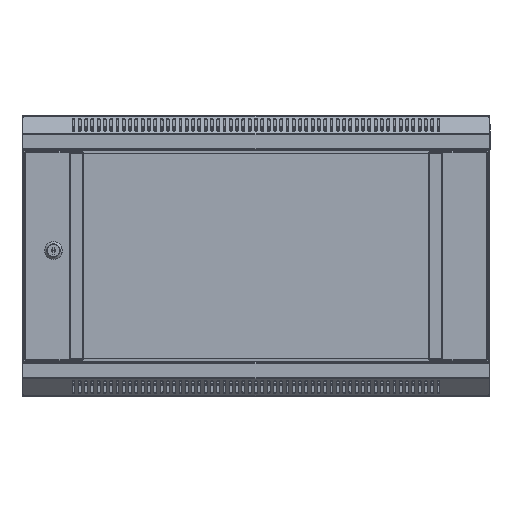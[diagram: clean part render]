
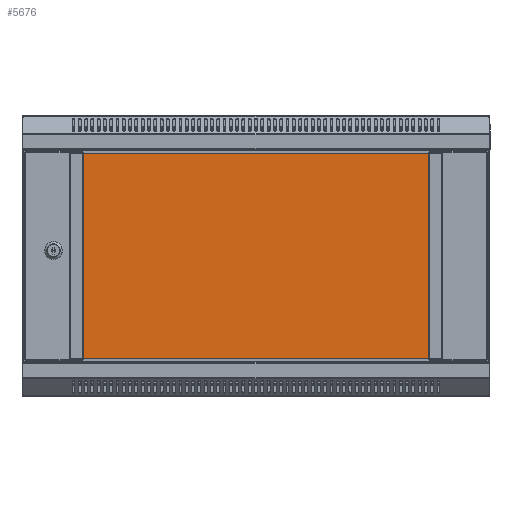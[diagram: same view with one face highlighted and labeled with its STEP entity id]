
A CAD part, front view. The second image highlights one B-rep face of the part: STEP entity #5676.
In plain terms, the highlighted planar face has unit normal (0, -1, 0) as drawn and (0, 0, 1) by its records, which use the part's own axes.
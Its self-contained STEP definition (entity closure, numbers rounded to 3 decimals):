
#5676 = ADVANCED_FACE( '', ( #11530 ), #11531, .T. );
#11530 = FACE_OUTER_BOUND( '', #17990, .T. );
#11531 = PLANE( '', #17991 );
#17990 = EDGE_LOOP( '', ( #34111, #34112, #34113, #34114 ) );
#17991 = AXIS2_PLACEMENT_3D( '', #34115, #34116, #34117 );
#34111 = ORIENTED_EDGE( '', *, *, #43946, .T. );
#34112 = ORIENTED_EDGE( '', *, *, #44250, .T. );
#34113 = ORIENTED_EDGE( '', *, *, #45908, .T. );
#34114 = ORIENTED_EDGE( '', *, *, #43526, .T. );
#34115 = CARTESIAN_POINT( '', ( -239.713, -131.763, 2.451 ) );
#34116 = DIRECTION( '', ( 0., 0., 1. ) );
#34117 = DIRECTION( '', ( 1., 0., 0. ) );
#43526 = EDGE_CURVE( '', #54030, #54028, #54031, .T. );
#43946 = EDGE_CURVE( '', #54028, #54699, #54701, .T. );
#44250 = EDGE_CURVE( '', #54699, #55167, #55169, .T. );
#45908 = EDGE_CURVE( '', #55167, #54030, #57610, .T. );
#54028 = VERTEX_POINT( '', #65937 );
#54030 = VERTEX_POINT( '', #65940 );
#54031 = LINE( '', #65941, #65942 );
#54699 = VERTEX_POINT( '', #66893 );
#54701 = LINE( '', #66896, #66897 );
#55167 = VERTEX_POINT( '', #67534 );
#55169 = LINE( '', #67537, #67538 );
#57610 = LINE( '', #70966, #70967 );
#65937 = CARTESIAN_POINT( '', ( -239.713, 131.763, 2.451 ) );
#65940 = CARTESIAN_POINT( '', ( 239.713, 131.763, 2.451 ) );
#65941 = CARTESIAN_POINT( '', ( 239.713, 131.763, 2.451 ) );
#65942 = VECTOR( '', #78150, 1000. );
#66893 = CARTESIAN_POINT( '', ( -239.713, -131.763, 2.451 ) );
#66896 = CARTESIAN_POINT( '', ( -239.713, 131.763, 2.451 ) );
#66897 = VECTOR( '', #78654, 1000. );
#67534 = CARTESIAN_POINT( '', ( 239.713, -131.763, 2.451 ) );
#67537 = CARTESIAN_POINT( '', ( -239.713, -131.763, 2.451 ) );
#67538 = VECTOR( '', #78998, 1000. );
#70966 = CARTESIAN_POINT( '', ( 239.713, -131.763, 2.451 ) );
#70967 = VECTOR( '', #81114, 1000. );
#78150 = DIRECTION( '', ( -1., 0., 0. ) );
#78654 = DIRECTION( '', ( 0., -1., 0. ) );
#78998 = DIRECTION( '', ( 1., 0., 0. ) );
#81114 = DIRECTION( '', ( 0., 1., 0. ) );
